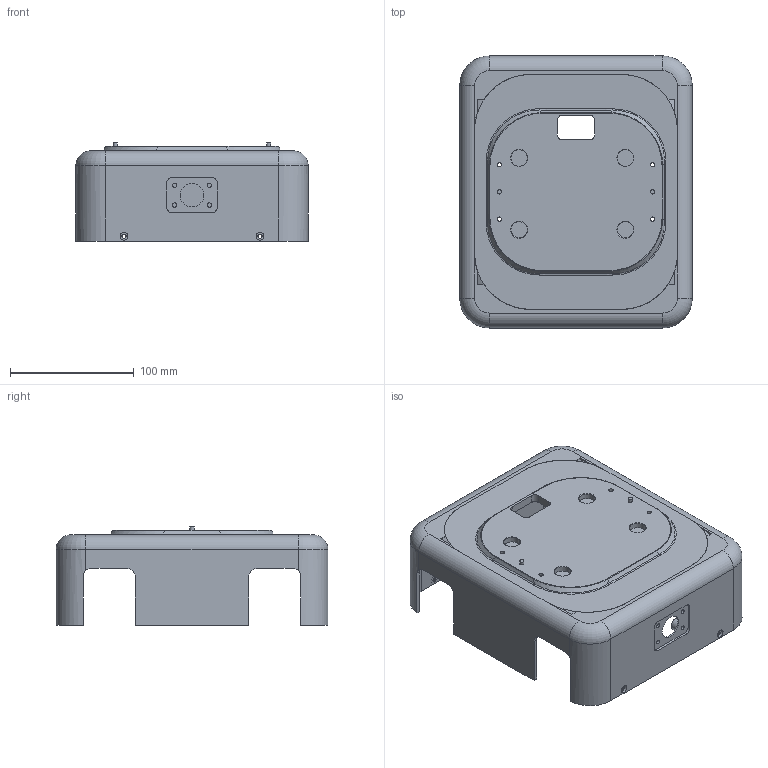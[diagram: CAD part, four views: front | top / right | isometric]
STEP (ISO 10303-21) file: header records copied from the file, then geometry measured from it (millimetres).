
FILE_DESCRIPTION(('FreeCAD Model'),'2;1');
FILE_NAME('Open CASCADE Shape Model','2026-10-26T18:20:27',('FreeCAD'),( 'FreeCAD'),'Open CASCADE STEP processor 7.8','FreeCAD','Unknown');
FILE_SCHEMA(('AUTOMOTIVE_DESIGN { 1 0 10303 214 1 1 1 1 }'));
Length unit declared in the file: millimetre
Products named in the file (1): Open CASCADE STEP translator 7.8 2
Bounding box: 188 x 220 x 79.47 mm (x, y, z)
Volume: 313677.1 mm3; surface area: 177471.4 mm2
Topology: 1 solids, 1 shells, 297 faces, 797 edges, 526 vertices
Faces by surface type: plane 171, cylinder 78, bspline 36, torus 8, cone 4
Full cylindrical faces by diameter (mm): 3.4 x14, 6.4 x8, 10 x4, 12.4 x2, 13.2 x4, 14.5 x1, 19 x1
Entity records: 12534 total; most frequent: CARTESIAN_POINT 5277, ORIENTED_EDGE 1594, DIRECTION 1393, EDGE_CURVE 797, VERTEX_POINT 526, AXIS2_PLACEMENT_3D 473, LINE 447, VECTOR 447
